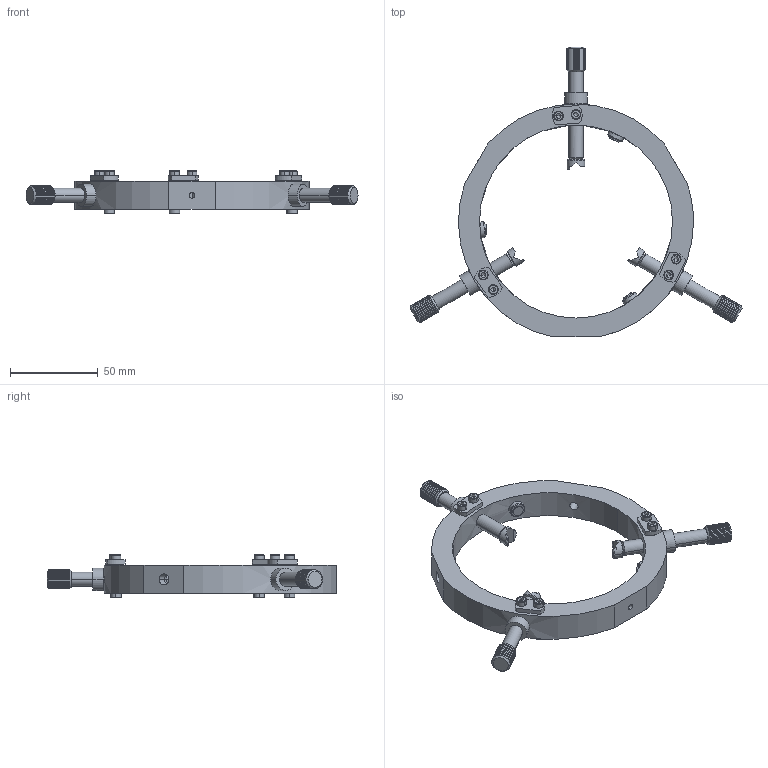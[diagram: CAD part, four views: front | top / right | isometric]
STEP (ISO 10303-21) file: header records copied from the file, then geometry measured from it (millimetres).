
FILE_DESCRIPTION (( 'STEP AP203' ), '1' );
FILE_NAME ('4LM149-10.STEP', '2012-03-09T08:47:17', ( 'Darius' ), ( '' ), 'SwSTEP 2.0', 'SolidWorks 2003240', '' );
FILE_SCHEMA (( 'CONFIG_CONTROL_DESIGN' ));
Length unit declared in the file: millimetre
Products named in the file (1): 4LM149-10
Bounding box: 189.24 x 165.11 x 24.5 mm (x, y, z)
Volume: 85255.2 mm3; surface area: 30693.3 mm2
Topology: 1 solids, 7 shells, 462 faces, 1195 edges, 775 vertices
Faces by surface type: plane 267, cylinder 114, cone 69, bspline 12
Entity records: 15363 total; most frequent: CARTESIAN_POINT 4677, ORIENTED_EDGE 2354, DIRECTION 1960, EDGE_CURVE 1177, VERTEX_POINT 775, AXIS2_PLACEMENT_3D 754, EDGE_LOOP 528, FACE_OUTER_BOUND 462
